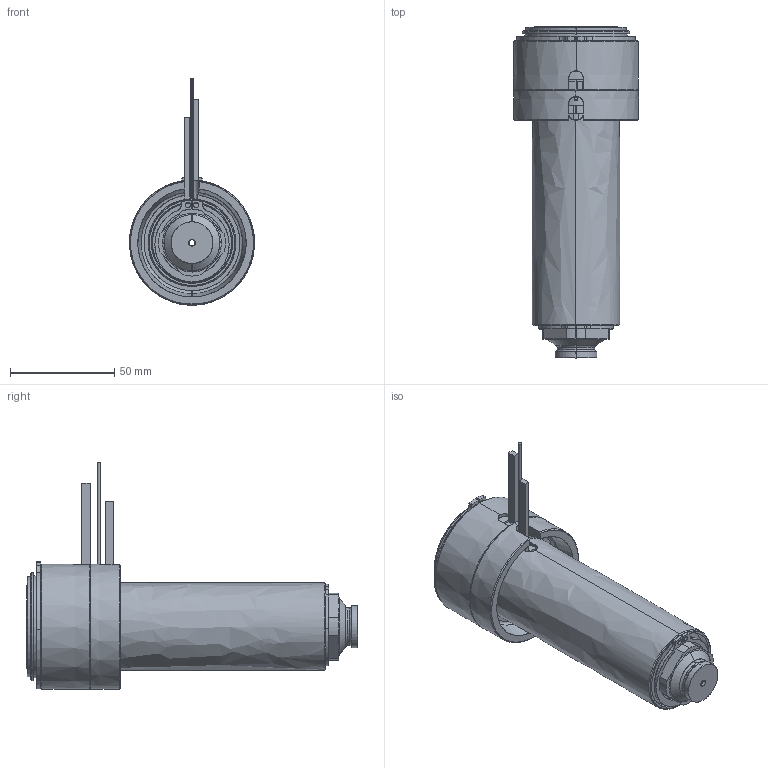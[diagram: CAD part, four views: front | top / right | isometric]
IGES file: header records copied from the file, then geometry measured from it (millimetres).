
Start section: SolidWorks IGES file using analytic representation for surfaces
Global section: file name: C:\Documents and Settings\ws-20\Desktop\TEM\UGER6605-M-A-0 [Øb-2.9 P-0 ØC-17].IGS; native system: SolidWorks 2012; preprocessor: SolidWorks 2012; author: ws-20; date: 120417.135243; units: millimetre
Bounding box: 60 x 159.25 x 108.65 mm (x, y, z)
Surface area: 87802.7 mm2 (no closed solid volume)
Topology: 0 solids, 0 shells, 163 faces, 3050 edges, 3050 vertices
Faces by surface type: revolution 98, bspline 65
